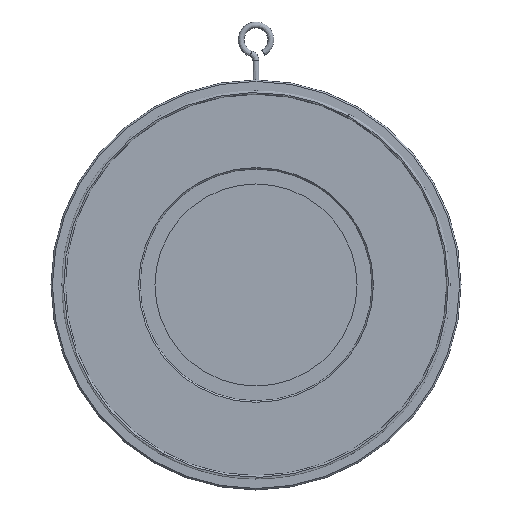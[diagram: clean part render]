
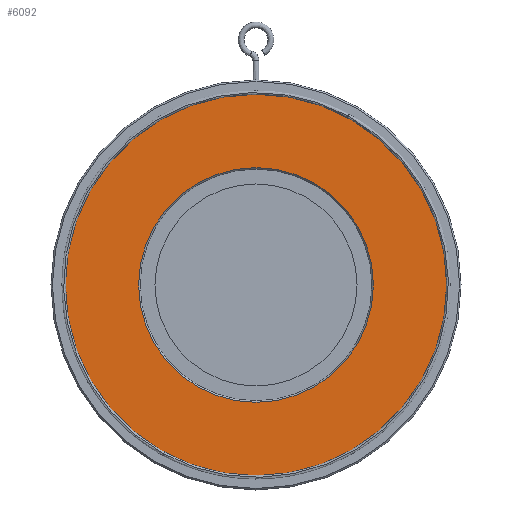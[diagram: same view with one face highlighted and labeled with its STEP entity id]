
A CAD part, left-side view. The second image highlights one B-rep face of the part: STEP entity #6092.
In plain terms, the highlighted planar face has unit normal (-1, 0, 0).
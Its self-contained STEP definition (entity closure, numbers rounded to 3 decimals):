
#240 = EDGE_CURVE ( 'NONE', #9793, #5052, #4880, .T. ) ;
#253 = DIRECTION ( 'NONE',  ( 1., 0., 0. ) ) ;
#833 = AXIS2_PLACEMENT_3D ( 'NONE', #9136, #3065, #8443 ) ;
#1369 = CARTESIAN_POINT ( 'NONE',  ( -11., 0., -128.353 ) ) ;
#1915 = AXIS2_PLACEMENT_3D ( 'NONE', #8400, #3808, #9170 ) ;
#1954 = FACE_BOUND ( 'NONE', #4300, .T. ) ;
#2041 = CIRCLE ( 'NONE', #7218, 128.353 ) ;
#2135 = VERTEX_POINT ( 'NONE', #5239 ) ;
#2154 = AXIS2_PLACEMENT_3D ( 'NONE', #3415, #8781, #4195 ) ;
#2301 = PLANE ( 'NONE',  #833 ) ;
#2391 = EDGE_CURVE ( 'NONE', #5052, #9793, #2795, .T. ) ;
#2795 = CIRCLE ( 'NONE', #7138, 79. ) ;
#3065 = DIRECTION ( 'NONE',  ( 1., 0., 0. ) ) ;
#3415 = CARTESIAN_POINT ( 'NONE',  ( -11., 0., 0. ) ) ;
#3808 = DIRECTION ( 'NONE',  ( 1., 0., 0. ) ) ;
#3825 = ORIENTED_EDGE ( 'NONE', *, *, #7568, .F. ) ;
#4011 = FACE_OUTER_BOUND ( 'NONE', #6697, .T. ) ;
#4134 = CIRCLE ( 'NONE', #2154, 128.353 ) ;
#4176 = ORIENTED_EDGE ( 'NONE', *, *, #240, .T. ) ;
#4195 = DIRECTION ( 'NONE',  ( 0., 0., 1. ) ) ;
#4300 = EDGE_LOOP ( 'NONE', ( #5741, #4176 ) ) ;
#4527 = DIRECTION ( 'NONE',  ( 1., 0., 0. ) ) ;
#4670 = CARTESIAN_POINT ( 'NONE',  ( -11., 0., -79. ) ) ;
#4833 = CARTESIAN_POINT ( 'NONE',  ( -11., 0., 0. ) ) ;
#4880 = CIRCLE ( 'NONE', #1915, 79. ) ;
#5052 = VERTEX_POINT ( 'NONE', #8209 ) ;
#5239 = CARTESIAN_POINT ( 'NONE',  ( -11., 0., 128.353 ) ) ;
#5594 = DIRECTION ( 'NONE',  ( 0., 0., 1. ) ) ;
#5741 = ORIENTED_EDGE ( 'NONE', *, *, #2391, .T. ) ;
#6092 = ADVANCED_FACE ( 'NONE', ( #1954, #4011 ), #2301, .F. ) ;
#6450 = EDGE_CURVE ( 'NONE', #2135, #6772, #4134, .T. ) ;
#6505 = ORIENTED_EDGE ( 'NONE', *, *, #6450, .F. ) ;
#6697 = EDGE_LOOP ( 'NONE', ( #6505, #3825 ) ) ;
#6772 = VERTEX_POINT ( 'NONE', #1369 ) ;
#7138 = AXIS2_PLACEMENT_3D ( 'NONE', #9119, #4527, #9891 ) ;
#7218 = AXIS2_PLACEMENT_3D ( 'NONE', #4833, #253, #5594 ) ;
#7568 = EDGE_CURVE ( 'NONE', #6772, #2135, #2041, .T. ) ;
#8209 = CARTESIAN_POINT ( 'NONE',  ( -11., 0., 79. ) ) ;
#8400 = CARTESIAN_POINT ( 'NONE',  ( -11., 0., 0. ) ) ;
#8443 = DIRECTION ( 'NONE',  ( 0., 0., -1. ) ) ;
#8781 = DIRECTION ( 'NONE',  ( 1., 0., 0. ) ) ;
#9119 = CARTESIAN_POINT ( 'NONE',  ( -11., 0., 0. ) ) ;
#9136 = CARTESIAN_POINT ( 'NONE',  ( -11., 0., 0. ) ) ;
#9170 = DIRECTION ( 'NONE',  ( 0., 0., 1. ) ) ;
#9793 = VERTEX_POINT ( 'NONE', #4670 ) ;
#9891 = DIRECTION ( 'NONE',  ( 0., 0., 1. ) ) ;
